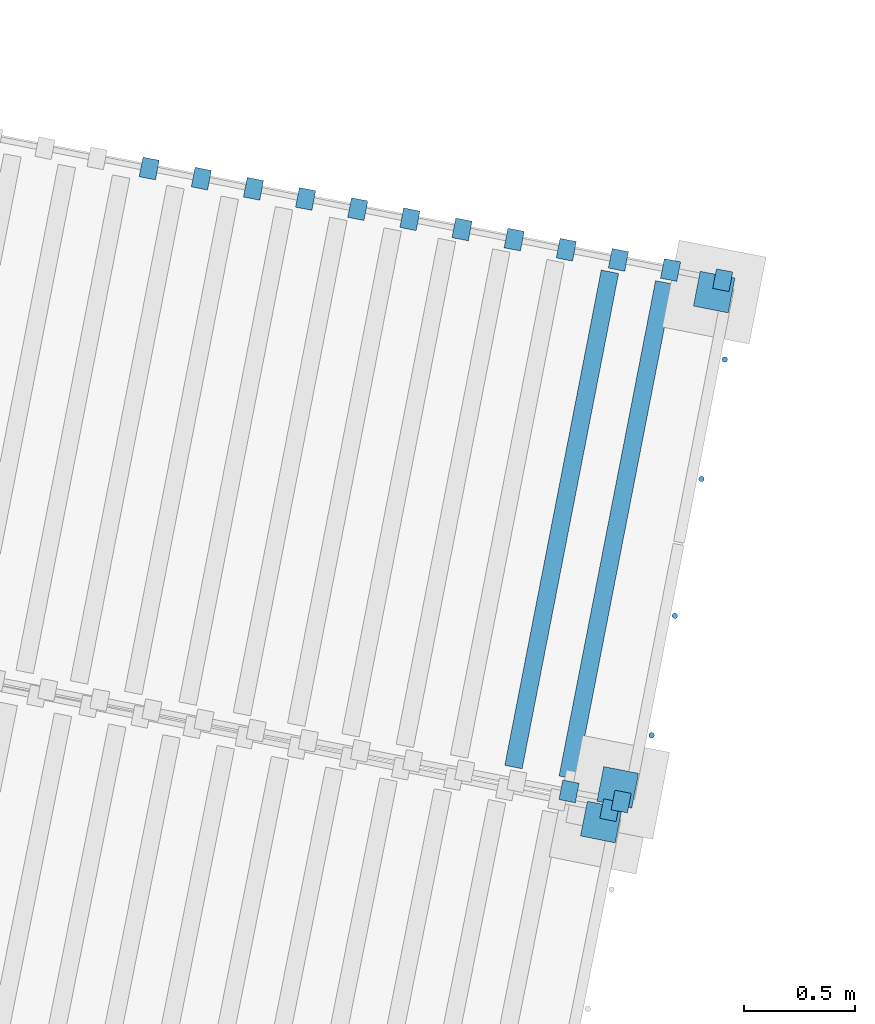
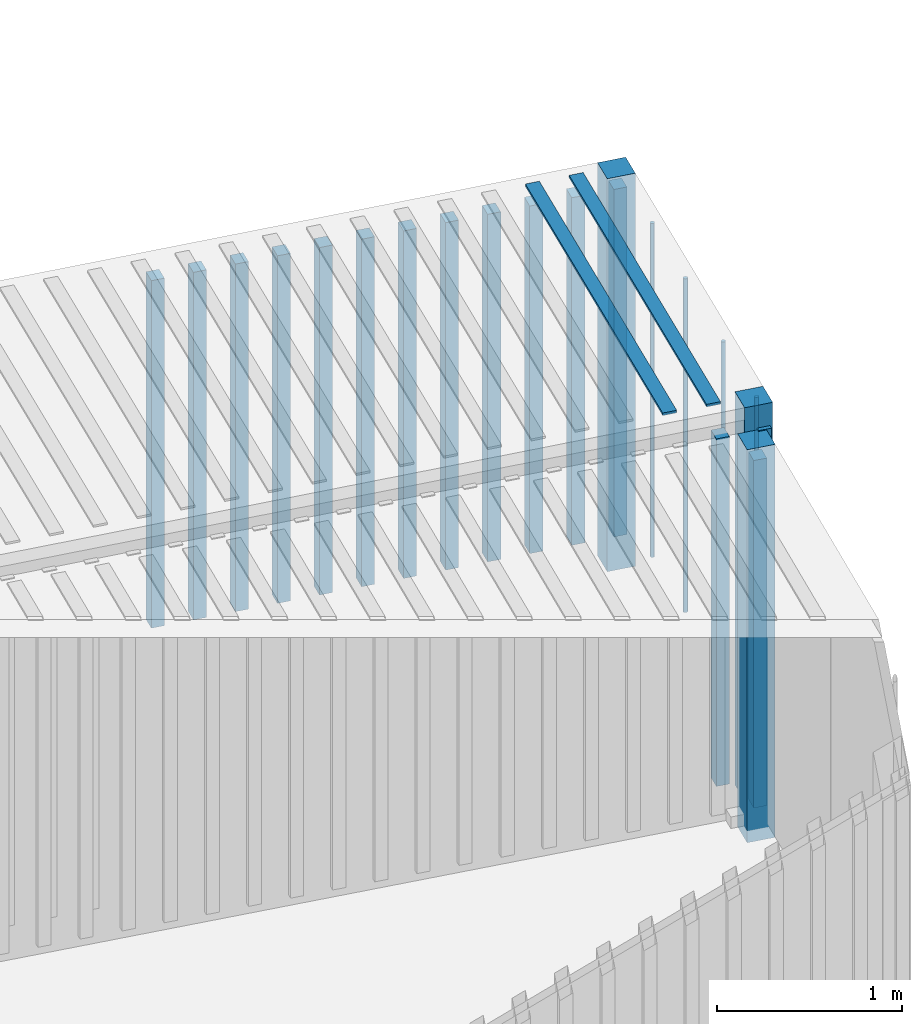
# One storey, part 83 of 131: 24 members, 2 elements without a shape of their own.
"""IFC4 building model written with IfcOpenShell, lengths in metres."""

from ifc_helpers import new_model, si_unit, direction, frame, origin_with_axes, place, context, subcontext, project, spatial, polyline, circle, outline, extrude, material, material_profile, profile_set, profile_usage, type_object, element, aggregate, save


model = new_model("IFC4")

# Units and contexts
model_context = context("Model", 3, precision=1e-05, world=origin_with_axes(), true_north=direction((0.0, 1.0)))
body_context = subcontext(model_context, "Body", "Model", "MODEL_VIEW")
ifc_project = project(units=[si_unit("AREAUNIT", "SQUARE_METRE"), si_unit("VOLUMEUNIT", "CUBIC_METRE"), si_unit("LENGTHUNIT", "METRE")], contexts=[model_context])

# Site, building, storey
site_placement = place(None, origin_with_axes())
site = spatial("IfcSite", under=ifc_project, at=site_placement, Name="Lares · Rua das Mercês · artigo 4771")
building_placement = place(site_placement, frame((15.0, 9.7, 14.65), z_axis=(0.0, 0.0, 1.0), x_axis=(0.989015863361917, -0.147809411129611, 0.0)))
building = spatial("IfcBuilding", under=site, at=building_placement, Name="Casa Sobreposta")
storey_placement = place(building_placement, origin_with_axes())
storey = spatial("IfcBuildingStorey", under=building, at=storey_placement, Name="00 · Habitação e estacionamento", Elevation=14.65)

# Assembly, members
assembly_1_placement = place(storey_placement, frame((-14.4335953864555, 9.04888612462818, 0.0), z_axis=(0.0, 0.0, 1.0), x_axis=(0.999032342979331, -0.0439815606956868, 0.0)))
assembly_1 = element("IfcElementAssembly", 1, at=assembly_1_placement, inside=storey, Name="Contentor existente 1 · 6 m", ObjectType="EXISTING_SHIPPING_CONTAINER", PredefinedType="USERDEFINED")
ifc_material_1 = material(Name="Aço galvanizado / Stahl verzinkt", Category="steel")
ifc_material_profile = material_profile(ifc_material_1, circle(Radius=0.0125))
ifc_profile_set = profile_set([ifc_material_profile], Name="D0.025")
ifc_profile_usage_1 = profile_usage(ifc_profile_set)
member_type = type_object("IfcMemberType", Name="D0.025 / galvanized", PredefinedType="NOTDEFINED", material=ifc_profile_set)
member_1_placement = place(assembly_1_placement, frame((6.025, 0.34, -0.813141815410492), z_axis=(0.0, 0.0, 1.0), x_axis=(1.0, 0.0, 0.0)))
member_1 = element("IfcMember", 2, at=member_1_placement, type_object=member_type, material=ifc_profile_usage_1, Name="Contentor · varão de fecho", context=body_context, shape_type="SweptSolid", body=[
    extrude(circle(Radius=0.0125), origin_with_axes(), (0.0, 0.0, 1.0), 2.2),
])
ifc_profile_usage_2 = profile_usage(ifc_profile_set)
member_2_placement = place(assembly_1_placement, frame((6.025, 0.89, -0.813141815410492), z_axis=(0.0, 0.0, 1.0), x_axis=(1.0, 0.0, 0.0)))
member_2 = element("IfcMember", 3, at=member_2_placement, type_object=member_type, material=ifc_profile_usage_2, Name="Contentor · varão de fecho", context=body_context, shape_type="SweptSolid", body=[
    extrude(circle(Radius=0.0125), origin_with_axes(), (0.0, 0.0, 1.0), 2.2),
])
ifc_profile_usage_3 = profile_usage(ifc_profile_set)
member_3_placement = place(assembly_1_placement, frame((6.025, 1.52, -0.813141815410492), z_axis=(0.0, 0.0, 1.0), x_axis=(1.0, 0.0, 0.0)))
member_3 = element("IfcMember", 4, at=member_3_placement, type_object=member_type, material=ifc_profile_usage_3, Name="Contentor · varão de fecho", context=body_context, shape_type="SweptSolid", body=[
    extrude(circle(Radius=0.0125), origin_with_axes(), (0.0, 0.0, 1.0), 2.2),
])
ifc_profile_usage_4 = profile_usage(ifc_profile_set)
member_4_placement = place(assembly_1_placement, frame((6.025, 2.07, -0.813141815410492), z_axis=(0.0, 0.0, 1.0), x_axis=(1.0, 0.0, 0.0)))
member_4 = element("IfcMember", 5, at=member_4_placement, type_object=member_type, material=ifc_profile_usage_4, Name="Contentor · varão de fecho", context=body_context, shape_type="SweptSolid", body=[
    extrude(circle(Radius=0.0125), origin_with_axes(), (0.0, 0.0, 1.0), 2.2),
])
ifc_material_2 = material(Name="Contentor · pintura 1", Category="steel")
member_5_placement = place(assembly_1_placement, frame((0.0, 0.0, -1.01314181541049), z_axis=(0.0, 0.0, 1.0), x_axis=(1.0, 0.0, 0.0)))
member_5 = element("IfcMember", 6, at=member_5_placement, material=ifc_material_2, Name="Contentor · canto", context=body_context, shape_type="SweptSolid", body=[
    extrude(outline(polyline([(6.0, 0.0), (6.0, 0.16), (5.84, 0.16), (5.84, 0.0), (6.0, 0.0)])), origin_with_axes(), (0.0, 0.0, 1.0), 2.59),
])
member_6_placement = place(assembly_1_placement, frame((0.0, 0.0, -1.01314181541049), z_axis=(0.0, 0.0, 1.0), x_axis=(1.0, 0.0, 0.0)))
member_6 = element("IfcMember", 7, at=member_6_placement, material=ifc_material_2, Name="Contentor · canto", context=body_context, shape_type="SweptSolid", body=[
    extrude(outline(polyline([(6.0, 2.28), (6.0, 2.44), (5.84, 2.44), (5.84, 2.28), (6.0, 2.28)])), origin_with_axes(), (0.0, 0.0, 1.0), 2.59),
])
member_7_placement = place(assembly_1_placement, frame((0.0, 0.0, -0.863141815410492), z_axis=(0.0, 0.0, 1.0), x_axis=(1.0, 0.0, 0.0)))
member_7 = element("IfcMember", 8, at=member_7_placement, material=ifc_material_2, Name="Contentor · nervura lateral", context=body_context, shape_type="SweptSolid", body=[
    extrude(outline(polyline([(5.745, -0.025), (5.745, 0.065), (5.67, 0.065), (5.67, -0.025), (5.745, -0.025)])), origin_with_axes(), (0.0, 0.0, 1.0), 2.29),
])
member_8_placement = place(assembly_1_placement, frame((0.0, 0.0, -0.863141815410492), z_axis=(0.0, 0.0, 1.0), x_axis=(1.0, 0.0, 0.0)))
member_8 = element("IfcMember", 9, at=member_8_placement, material=ifc_material_2, Name="Contentor · nervura lateral", context=body_context, shape_type="SweptSolid", body=[
    extrude(outline(polyline([(5.985, -0.025), (5.985, 0.065), (5.91, 0.065), (5.91, -0.025), (5.985, -0.025)])), origin_with_axes(), (0.0, 0.0, 1.0), 2.29),
])
member_9_placement = place(assembly_1_placement, frame((0.0, 0.0, -0.863141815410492), z_axis=(0.0, 0.0, 1.0), x_axis=(1.0, 0.0, 0.0)))
member_9 = element("IfcMember", 10, at=member_9_placement, material=ifc_material_2, Name="Contentor · nervura lateral", context=body_context, shape_type="SweptSolid", body=[
    extrude(outline(polyline([(3.345, 2.375), (3.345, 2.465), (3.27, 2.465), (3.27, 2.375), (3.345, 2.375)])), origin_with_axes(), (0.0, 0.0, 1.0), 2.29),
])
member_10_placement = place(assembly_1_placement, frame((0.0, 0.0, -0.863141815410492), z_axis=(0.0, 0.0, 1.0), x_axis=(1.0, 0.0, 0.0)))
member_10 = element("IfcMember", 11, at=member_10_placement, material=ifc_material_2, Name="Contentor · nervura lateral", context=body_context, shape_type="SweptSolid", body=[
    extrude(outline(polyline([(3.585, 2.375), (3.585, 2.465), (3.51, 2.465), (3.51, 2.375), (3.585, 2.375)])), origin_with_axes(), (0.0, 0.0, 1.0), 2.29),
])
member_11_placement = place(assembly_1_placement, frame((0.0, 0.0, -0.863141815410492), z_axis=(0.0, 0.0, 1.0), x_axis=(1.0, 0.0, 0.0)))
member_11 = element("IfcMember", 12, at=member_11_placement, material=ifc_material_2, Name="Contentor · nervura lateral", context=body_context, shape_type="SweptSolid", body=[
    extrude(outline(polyline([(3.825, 2.375), (3.825, 2.465), (3.75, 2.465), (3.75, 2.375), (3.825, 2.375)])), origin_with_axes(), (0.0, 0.0, 1.0), 2.29),
])
member_12_placement = place(assembly_1_placement, frame((0.0, 0.0, -0.863141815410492), z_axis=(0.0, 0.0, 1.0), x_axis=(1.0, 0.0, 0.0)))
member_12 = element("IfcMember", 13, at=member_12_placement, material=ifc_material_2, Name="Contentor · nervura lateral", context=body_context, shape_type="SweptSolid", body=[
    extrude(outline(polyline([(4.065, 2.375), (4.065, 2.465), (3.99, 2.465), (3.99, 2.375), (4.065, 2.375)])), origin_with_axes(), (0.0, 0.0, 1.0), 2.29),
])
member_13_placement = place(assembly_1_placement, frame((0.0, 0.0, -0.863141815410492), z_axis=(0.0, 0.0, 1.0), x_axis=(1.0, 0.0, 0.0)))
member_13 = element("IfcMember", 14, at=member_13_placement, material=ifc_material_2, Name="Contentor · nervura lateral", context=body_context, shape_type="SweptSolid", body=[
    extrude(outline(polyline([(4.305, 2.375), (4.305, 2.465), (4.23, 2.465), (4.23, 2.375), (4.305, 2.375)])), origin_with_axes(), (0.0, 0.0, 1.0), 2.29),
])
member_14_placement = place(assembly_1_placement, frame((0.0, 0.0, -0.863141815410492), z_axis=(0.0, 0.0, 1.0), x_axis=(1.0, 0.0, 0.0)))
member_14 = element("IfcMember", 15, at=member_14_placement, material=ifc_material_2, Name="Contentor · nervura lateral", context=body_context, shape_type="SweptSolid", body=[
    extrude(outline(polyline([(4.545, 2.375), (4.545, 2.465), (4.47, 2.465), (4.47, 2.375), (4.545, 2.375)])), origin_with_axes(), (0.0, 0.0, 1.0), 2.29),
])
member_15_placement = place(assembly_1_placement, frame((0.0, 0.0, -0.863141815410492), z_axis=(0.0, 0.0, 1.0), x_axis=(1.0, 0.0, 0.0)))
member_15 = element("IfcMember", 16, at=member_15_placement, material=ifc_material_2, Name="Contentor · nervura lateral", context=body_context, shape_type="SweptSolid", body=[
    extrude(outline(polyline([(4.785, 2.375), (4.785, 2.465), (4.71, 2.465), (4.71, 2.375), (4.785, 2.375)])), origin_with_axes(), (0.0, 0.0, 1.0), 2.29),
])
member_16_placement = place(assembly_1_placement, frame((0.0, 0.0, -0.863141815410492), z_axis=(0.0, 0.0, 1.0), x_axis=(1.0, 0.0, 0.0)))
member_16 = element("IfcMember", 17, at=member_16_placement, material=ifc_material_2, Name="Contentor · nervura lateral", context=body_context, shape_type="SweptSolid", body=[
    extrude(outline(polyline([(5.025, 2.375), (5.025, 2.465), (4.95, 2.465), (4.95, 2.375), (5.025, 2.375)])), origin_with_axes(), (0.0, 0.0, 1.0), 2.29),
])
member_17_placement = place(assembly_1_placement, frame((0.0, 0.0, -0.863141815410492), z_axis=(0.0, 0.0, 1.0), x_axis=(1.0, 0.0, 0.0)))
member_17 = element("IfcMember", 18, at=member_17_placement, material=ifc_material_2, Name="Contentor · nervura lateral", context=body_context, shape_type="SweptSolid", body=[
    extrude(outline(polyline([(5.265, 2.375), (5.265, 2.465), (5.19, 2.465), (5.19, 2.375), (5.265, 2.375)])), origin_with_axes(), (0.0, 0.0, 1.0), 2.29),
])
member_18_placement = place(assembly_1_placement, frame((0.0, 0.0, -0.863141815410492), z_axis=(0.0, 0.0, 1.0), x_axis=(1.0, 0.0, 0.0)))
member_18 = element("IfcMember", 19, at=member_18_placement, material=ifc_material_2, Name="Contentor · nervura lateral", context=body_context, shape_type="SweptSolid", body=[
    extrude(outline(polyline([(5.505, 2.375), (5.505, 2.465), (5.43, 2.465), (5.43, 2.375), (5.505, 2.375)])), origin_with_axes(), (0.0, 0.0, 1.0), 2.29),
])
member_19_placement = place(assembly_1_placement, frame((0.0, 0.0, -0.863141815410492), z_axis=(0.0, 0.0, 1.0), x_axis=(1.0, 0.0, 0.0)))
member_19 = element("IfcMember", 20, at=member_19_placement, material=ifc_material_2, Name="Contentor · nervura lateral", context=body_context, shape_type="SweptSolid", body=[
    extrude(outline(polyline([(5.745, 2.375), (5.745, 2.465), (5.67, 2.465), (5.67, 2.375), (5.745, 2.375)])), origin_with_axes(), (0.0, 0.0, 1.0), 2.29),
])
member_20_placement = place(assembly_1_placement, frame((0.0, 0.0, -0.863141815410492), z_axis=(0.0, 0.0, 1.0), x_axis=(1.0, 0.0, 0.0)))
member_20 = element("IfcMember", 21, at=member_20_placement, material=ifc_material_2, Name="Contentor · nervura lateral", context=body_context, shape_type="SweptSolid", body=[
    extrude(outline(polyline([(5.985, 2.375), (5.985, 2.465), (5.91, 2.465), (5.91, 2.375), (5.985, 2.375)])), origin_with_axes(), (0.0, 0.0, 1.0), 2.29),
])
member_21_placement = place(assembly_1_placement, frame((0.0, 0.0, 1.57185818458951), z_axis=(0.0, 0.0, 1.0), x_axis=(1.0, 0.0, 0.0)))
member_21 = element("IfcMember", 22, at=member_21_placement, material=ifc_material_2, Name="Contentor · nervura cobertura", context=body_context, shape_type="SweptSolid", body=[
    extrude(outline(polyline([(5.48, 0.08), (5.48, 2.36), (5.4, 2.36), (5.4, 0.08), (5.48, 0.08)])), origin_with_axes(), (0.0, 0.0, 1.0), 0.018),
])
member_22_placement = place(assembly_1_placement, frame((0.0, 0.0, 1.57185818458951), z_axis=(0.0, 0.0, 1.0), x_axis=(1.0, 0.0, 0.0)))
member_22 = element("IfcMember", 23, at=member_22_placement, material=ifc_material_2, Name="Contentor · nervura cobertura", context=body_context, shape_type="SweptSolid", body=[
    extrude(outline(polyline([(5.73, 0.08), (5.73, 2.36), (5.65, 2.36), (5.65, 0.08), (5.73, 0.08)])), origin_with_axes(), (0.0, 0.0, 1.0), 0.018),
])
aggregate(assembly_1, [member_5, member_6, member_7, member_8, member_9, member_10, member_11, member_12, member_13, member_14, member_15, member_16, member_17, member_18, member_19, member_20, member_1, member_2, member_3, member_4, member_21, member_22])

assembly_2_placement = place(storey_placement, frame((-14.5932944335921, 6.63122214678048, 0.0), z_axis=(0.0, 0.0, 1.0), x_axis=(0.998832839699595, -0.0483007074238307, 0.0)))
assembly_2 = element("IfcElementAssembly", 24, at=assembly_2_placement, inside=storey, Name="Contentor existente 2 · 6 m", ObjectType="EXISTING_SHIPPING_CONTAINER", PredefinedType="USERDEFINED")
ifc_material_3 = material(Name="Contentor · pintura 2", Category="steel")
member_23_placement = place(assembly_2_placement, frame((0.0, 0.0, -1.16875169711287), z_axis=(0.0, 0.0, 1.0), x_axis=(1.0, 0.0, 0.0)))
member_23 = element("IfcMember", 25, at=member_23_placement, material=ifc_material_3, Name="Contentor · canto", context=body_context, shape_type="SweptSolid", body=[
    extrude(outline(polyline([(6.0, 2.28), (6.0, 2.44), (5.84, 2.44), (5.84, 2.28), (6.0, 2.28)])), origin_with_axes(), (0.0, 0.0, 1.0), 2.59),
])
member_24_placement = place(assembly_2_placement, frame((0.0, 0.0, -1.01875169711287), z_axis=(0.0, 0.0, 1.0), x_axis=(1.0, 0.0, 0.0)))
member_24 = element("IfcMember", 26, at=member_24_placement, material=ifc_material_3, Name="Contentor · nervura lateral", context=body_context, shape_type="SweptSolid", body=[
    extrude(outline(polyline([(5.985, 2.375), (5.985, 2.465), (5.91, 2.465), (5.91, 2.375), (5.985, 2.375)])), origin_with_axes(), (0.0, 0.0, 1.0), 2.29),
])
aggregate(assembly_2, [member_23, member_24])

save(model, "model.ifc")
